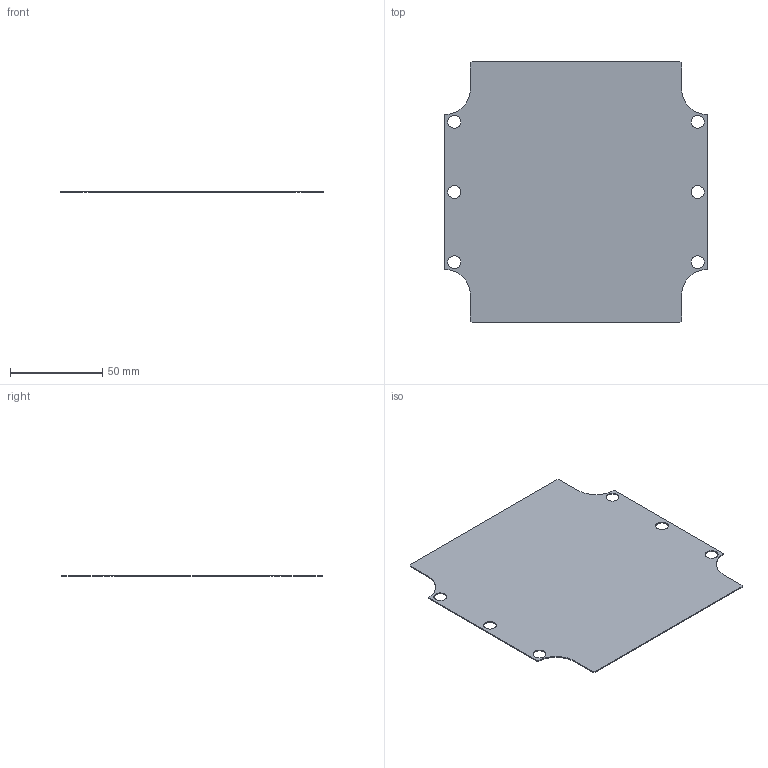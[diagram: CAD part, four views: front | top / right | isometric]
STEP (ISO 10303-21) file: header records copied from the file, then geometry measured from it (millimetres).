
FILE_DESCRIPTION((''),'2;1');
FILE_NAME('c:\temp\161PL.stp','2006-07-18T13:51:04',('kbond'),(''),'Autodesk Inventor 11','Autodesk Inventor 11','');
FILE_SCHEMA(('AUTOMOTIVE_DESIGN { 1 0 10303 214 1 1 1 1 }'));
Length unit declared in the file: millimetre
Products named in the file (1): 161PL
Bounding box: 142.5 x 142 x 0.5 mm (x, y, z)
Volume: 9273.2 mm3; surface area: 37429.9 mm2
Topology: 1 solids, 1 shells, 24 faces, 72 edges, 50 vertices
Faces by surface type: plane 14, bspline 6, cylinder 4
Entity records: 865 total; most frequent: CARTESIAN_POINT 231, ORIENTED_EDGE 120, DIRECTION 118, EDGE_CURVE 60, VERTEX_POINT 44, EDGE_LOOP 42, VECTOR 40, LINE 40
